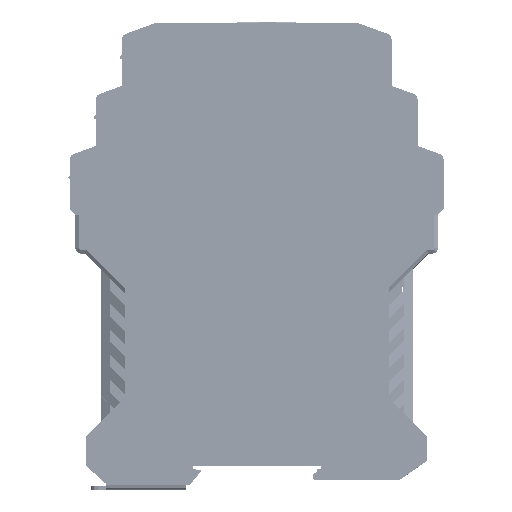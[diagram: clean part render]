
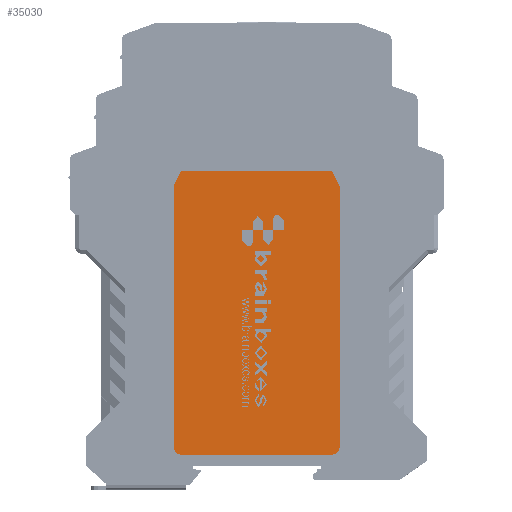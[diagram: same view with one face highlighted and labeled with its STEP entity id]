
A CAD part, top view. The second image highlights one B-rep face of the part: STEP entity #35030.
In plain terms, the highlighted planar face has unit normal (0, 0, 1).
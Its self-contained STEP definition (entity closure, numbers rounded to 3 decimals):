
#35030=ADVANCED_FACE('',(#72627),#72628,.T.);
#72627=FACE_OUTER_BOUND('',#112994,.T.);
#72628=PLANE('',#112995);
#112994=EDGE_LOOP('',(#221341,#221342,#221343,#221344,#221345,#221346,#221347,#221348));
#112995=AXIS2_PLACEMENT_3D('',#221349,#221350,#221351);
#221341=ORIENTED_EDGE('',*,*,#280159,.T.);
#221342=ORIENTED_EDGE('',*,*,#280161,.T.);
#221343=ORIENTED_EDGE('',*,*,#280162,.T.);
#221344=ORIENTED_EDGE('',*,*,#280152,.F.);
#221345=ORIENTED_EDGE('',*,*,#280163,.T.);
#221346=ORIENTED_EDGE('',*,*,#280148,.T.);
#221347=ORIENTED_EDGE('',*,*,#280164,.T.);
#221348=ORIENTED_EDGE('',*,*,#280156,.T.);
#221349=CARTESIAN_POINT('',(6.465,75.955,22.4));
#221350=DIRECTION('',(0.0,0.0,1.0));
#221351=DIRECTION('',(1.0,-0.0,0.0));
#280148=EDGE_CURVE('',#343536,#343538,#343540,.T.);
#280152=EDGE_CURVE('',#343544,#343542,#343546,.T.);
#280156=EDGE_CURVE('',#343548,#343550,#343552,.T.);
#280159=EDGE_CURVE('',#343550,#343554,#343556,.T.);
#280161=EDGE_CURVE('',#343554,#343558,#343559,.T.);
#280162=EDGE_CURVE('',#343558,#343542,#343560,.T.);
#280163=EDGE_CURVE('',#343544,#343536,#343561,.T.);
#280164=EDGE_CURVE('',#343538,#343548,#343562,.T.);
#343536=VERTEX_POINT('',#439996);
#343538=VERTEX_POINT('',#439999);
#343540=LINE('',#440002,#440003);
#343542=VERTEX_POINT('',#440005);
#343544=VERTEX_POINT('',#440008);
#343546=LINE('',#440011,#440012);
#343548=VERTEX_POINT('',#440014);
#343550=VERTEX_POINT('',#440017);
#343552=LINE('',#440020,#440021);
#343554=VERTEX_POINT('',#440023);
#343556=LINE('',#440026,#440027);
#343558=VERTEX_POINT('',#440029);
#343559=LINE('',#440030,#440031);
#343560=CIRCLE('',#440032,2.0);
#343561=CIRCLE('',#440033,2.0);
#343562=LINE('',#440034,#440035);
#439996=CARTESIAN_POINT('',(22.65,5.,22.4));
#439999=CARTESIAN_POINT('',(22.65,76.3,22.4));
#440002=CARTESIAN_POINT('',(22.65,-8.,22.4));
#440003=VECTOR('',#496399,1.0);
#440005=CARTESIAN_POINT('',(-20.65,3.,22.4));
#440008=CARTESIAN_POINT('',(20.65,3.,22.4));
#440011=CARTESIAN_POINT('',(0.,3.,22.4));
#440012=VECTOR('',#496402,1.0);
#440014=CARTESIAN_POINT('',(20.65,80.3,22.4));
#440017=CARTESIAN_POINT('',(-20.65,80.3,22.4));
#440020=CARTESIAN_POINT('',(0.,80.3,22.4));
#440021=VECTOR('',#496405,1.0);
#440023=CARTESIAN_POINT('',(-22.65,76.3,22.4));
#440026=CARTESIAN_POINT('',(-51.84,17.92,22.4));
#440027=VECTOR('',#496407,1.0);
#440029=CARTESIAN_POINT('',(-22.65,5.,22.4));
#440030=CARTESIAN_POINT('',(-22.65,-8.,22.4));
#440031=VECTOR('',#496408,1.0);
#440032=AXIS2_PLACEMENT_3D('',#496409,#496410,#496411);
#440033=AXIS2_PLACEMENT_3D('',#496412,#496413,#496414);
#440034=CARTESIAN_POINT('',(51.84,17.92,22.4));
#440035=VECTOR('',#496415,1.0);
#496399=DIRECTION('',(0.,1.0,0.0));
#496402=DIRECTION('',(-1.0,0.,0.0));
#496405=DIRECTION('',(-1.0,0.0,0.0));
#496407=DIRECTION('',(-0.447,-0.894,0.0));
#496408=DIRECTION('',(0.,-1.0,0.0));
#496409=CARTESIAN_POINT('',(-20.65,5.,22.4));
#496410=DIRECTION('',(0.0,0.0,1.0));
#496411=DIRECTION('',(1.0,0.0,0.0));
#496412=CARTESIAN_POINT('',(20.65,5.,22.4));
#496413=DIRECTION('',(0.0,0.0,1.0));
#496414=DIRECTION('',(1.0,0.0,0.0));
#496415=DIRECTION('',(-0.447,0.894,0.0));
